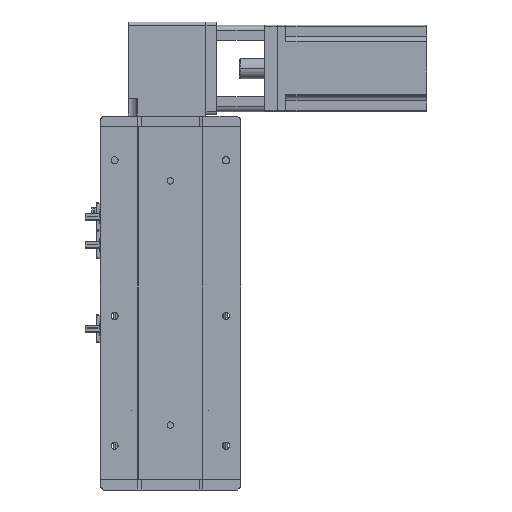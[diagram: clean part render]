
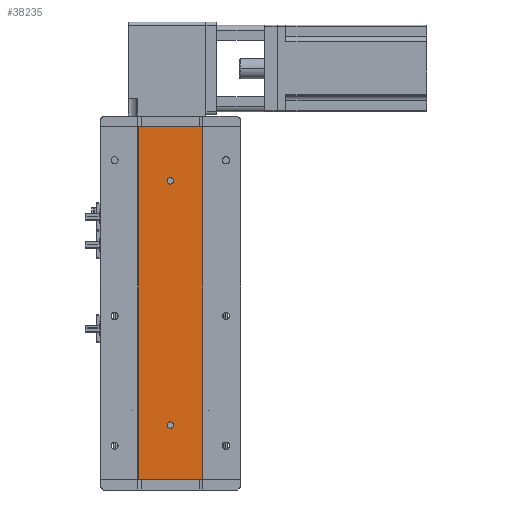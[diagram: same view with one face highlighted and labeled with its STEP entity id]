
A CAD part, left-side view. The second image highlights one B-rep face of the part: STEP entity #38235.
In plain terms, the highlighted planar face has unit normal (-1, 0, 0).
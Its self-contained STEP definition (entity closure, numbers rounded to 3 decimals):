
#1085 = EDGE_CURVE ( 'NONE', #36012, #22761, #18150, .T. ) ;
#1538 = VERTEX_POINT ( 'NONE', #33352 ) ;
#1699 = CARTESIAN_POINT ( 'NONE',  ( -24.994, -29.785, 326. ) ) ;
#2055 = EDGE_CURVE ( 'NONE', #28399, #30238, #41849, .T. ) ;
#2113 = DIRECTION ( 'NONE',  ( 1., 0., 0. ) ) ;
#2387 = CARTESIAN_POINT ( 'NONE',  ( -24.994, 0., 50. ) ) ;
#2806 = DIRECTION ( 'NONE',  ( -1., 0., 0. ) ) ;
#3802 = EDGE_CURVE ( 'NONE', #37447, #32001, #16980, .T. ) ;
#4475 = DIRECTION ( 'NONE',  ( -1., 0., 0. ) ) ;
#5271 = EDGE_CURVE ( 'NONE', #1538, #30238, #14841, .T. ) ;
#5594 = VECTOR ( 'NONE', #30783, 1000. ) ;
#5669 = DIRECTION ( 'NONE',  ( 0., 0., 1. ) ) ;
#10055 = CARTESIAN_POINT ( 'NONE',  ( -24.994, 0., 279. ) ) ;
#10591 = EDGE_LOOP ( 'NONE', ( #39301, #25005 ) ) ;
#11097 = LINE ( 'NONE', #17002, #19592 ) ;
#11360 = CARTESIAN_POINT ( 'NONE',  ( -24.994, 29.785, 326. ) ) ;
#11993 = CARTESIAN_POINT ( 'NONE',  ( -24.994, 0., 47. ) ) ;
#12905 = DIRECTION ( 'NONE',  ( -1., 0., 0. ) ) ;
#13133 = CIRCLE ( 'NONE', #38323, 3. ) ;
#13654 = CARTESIAN_POINT ( 'NONE',  ( -24.994, 0., 53. ) ) ;
#14841 = LINE ( 'NONE', #39852, #23454 ) ;
#15577 = ORIENTED_EDGE ( 'NONE', *, *, #2055, .F. ) ;
#15853 = EDGE_LOOP ( 'NONE', ( #32379, #15577, #40030, #20998 ) ) ;
#15890 = EDGE_CURVE ( 'NONE', #34238, #28399, #11097, .T. ) ;
#16109 = AXIS2_PLACEMENT_3D ( 'NONE', #32371, #12905, #35615 ) ;
#16348 = FACE_BOUND ( 'NONE', #36449, .T. ) ;
#16980 = CIRCLE ( 'NONE', #16109, 3. ) ;
#17002 = CARTESIAN_POINT ( 'NONE',  ( -24.994, 29.785, 326. ) ) ;
#17967 = PLANE ( 'NONE',  #20710 ) ;
#18150 = CIRCLE ( 'NONE', #23936, 3. ) ;
#18711 = CARTESIAN_POINT ( 'NONE',  ( -24.994, 29.785, 326. ) ) ;
#19592 = VECTOR ( 'NONE', #36485, 1000. ) ;
#20366 = DIRECTION ( 'NONE',  ( 0., -1., 0. ) ) ;
#20612 = LINE ( 'NONE', #11360, #5594 ) ;
#20628 = DIRECTION ( 'NONE',  ( 0., 0., -1. ) ) ;
#20710 = AXIS2_PLACEMENT_3D ( 'NONE', #21370, #2113, #24680 ) ;
#20998 = ORIENTED_EDGE ( 'NONE', *, *, #40803, .T. ) ;
#21370 = CARTESIAN_POINT ( 'NONE',  ( -24.994, 29.785, 326. ) ) ;
#22064 = CARTESIAN_POINT ( 'NONE',  ( -24.994, 0., 50. ) ) ;
#22137 = ORIENTED_EDGE ( 'NONE', *, *, #28502, .F. ) ;
#22761 = VERTEX_POINT ( 'NONE', #11993 ) ;
#23454 = VECTOR ( 'NONE', #20366, 1000. ) ;
#23755 = CARTESIAN_POINT ( 'NONE',  ( -24.994, 0., 276. ) ) ;
#23936 = AXIS2_PLACEMENT_3D ( 'NONE', #22064, #2806, #25387 ) ;
#24680 = DIRECTION ( 'NONE',  ( 0., 0., -1. ) ) ;
#24962 = DIRECTION ( 'NONE',  ( -1., 0., 0. ) ) ;
#25005 = ORIENTED_EDGE ( 'NONE', *, *, #33950, .F. ) ;
#25009 = CIRCLE ( 'NONE', #40781, 3. ) ;
#25387 = DIRECTION ( 'NONE',  ( 0., 0., 1. ) ) ;
#27053 = DIRECTION ( 'NONE',  ( 0., 0., 1. ) ) ;
#28399 = VERTEX_POINT ( 'NONE', #1699 ) ;
#28502 = EDGE_CURVE ( 'NONE', #22761, #36012, #25009, .T. ) ;
#30238 = VERTEX_POINT ( 'NONE', #34822 ) ;
#30488 = ORIENTED_EDGE ( 'NONE', *, *, #1085, .F. ) ;
#30783 = DIRECTION ( 'NONE',  ( 0., 0., -1. ) ) ;
#32001 = VERTEX_POINT ( 'NONE', #36661 ) ;
#32371 = CARTESIAN_POINT ( 'NONE',  ( -24.994, 0., 276. ) ) ;
#32379 = ORIENTED_EDGE ( 'NONE', *, *, #5271, .T. ) ;
#32649 = FACE_BOUND ( 'NONE', #10591, .T. ) ;
#33317 = VECTOR ( 'NONE', #20628, 1000. ) ;
#33352 = CARTESIAN_POINT ( 'NONE',  ( -24.994, 29.785, 0. ) ) ;
#33950 = EDGE_CURVE ( 'NONE', #32001, #37447, #13133, .T. ) ;
#34238 = VERTEX_POINT ( 'NONE', #18711 ) ;
#34822 = CARTESIAN_POINT ( 'NONE',  ( -24.994, -29.785, 0. ) ) ;
#35615 = DIRECTION ( 'NONE',  ( 0., 0., 1. ) ) ;
#36012 = VERTEX_POINT ( 'NONE', #13654 ) ;
#36449 = EDGE_LOOP ( 'NONE', ( #30488, #22137 ) ) ;
#36485 = DIRECTION ( 'NONE',  ( 0., -1., 0. ) ) ;
#36661 = CARTESIAN_POINT ( 'NONE',  ( -24.994, 0., 273. ) ) ;
#37447 = VERTEX_POINT ( 'NONE', #10055 ) ;
#38235 = ADVANCED_FACE ( 'NONE', ( #32649, #16348, #41201 ), #17967, .F. ) ;
#38323 = AXIS2_PLACEMENT_3D ( 'NONE', #23755, #4475, #27053 ) ;
#39301 = ORIENTED_EDGE ( 'NONE', *, *, #3802, .F. ) ;
#39852 = CARTESIAN_POINT ( 'NONE',  ( -24.994, 29.785, 0. ) ) ;
#40030 = ORIENTED_EDGE ( 'NONE', *, *, #15890, .F. ) ;
#40118 = CARTESIAN_POINT ( 'NONE',  ( -24.994, -29.785, 326. ) ) ;
#40781 = AXIS2_PLACEMENT_3D ( 'NONE', #2387, #24962, #5669 ) ;
#40803 = EDGE_CURVE ( 'NONE', #34238, #1538, #20612, .T. ) ;
#41201 = FACE_OUTER_BOUND ( 'NONE', #15853, .T. ) ;
#41849 = LINE ( 'NONE', #40118, #33317 ) ;
